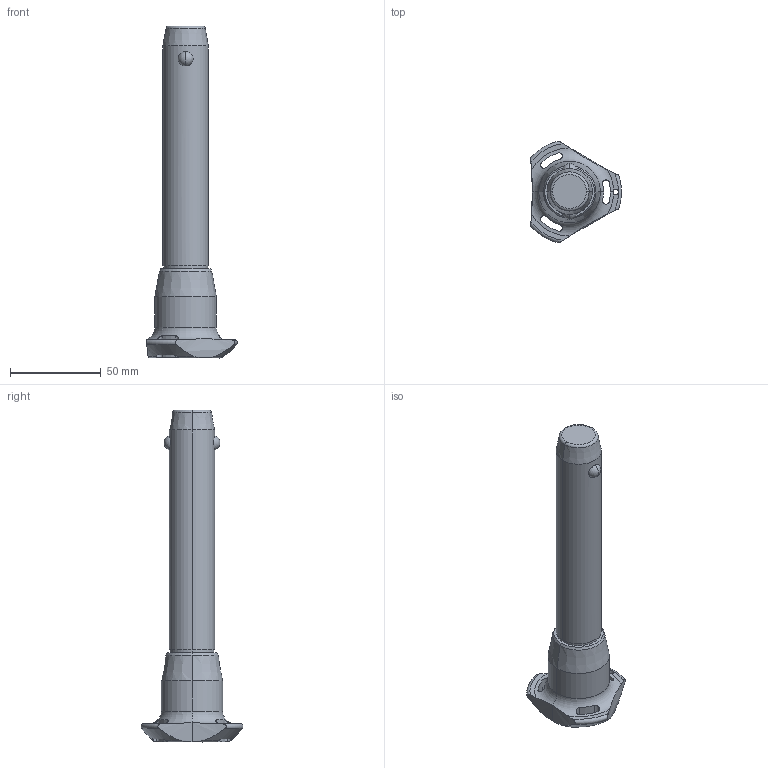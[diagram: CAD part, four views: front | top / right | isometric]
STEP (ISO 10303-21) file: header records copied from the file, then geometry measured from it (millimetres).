
FILE_DESCRIPTION (( 'STEP AP203' ), '1' );
FILE_NAME ('QR1734.M25-110-S.step', '2025-11-12T14:46:38', ( '' ), ( '' ), 'SwSTEP 2.0', 'SolidWorks 2019', '' );
FILE_SCHEMA (( 'CONFIG_CONTROL_DESIGN' ));
Length unit declared in the file: millimetre
Products named in the file (1): QR1734.M25-110-S
Bounding box: 50.04 x 56.02 x 182.7 mm (x, y, z)
Volume: 112449.7 mm3; surface area: 20088.6 mm2
Topology: 1 solids, 1 shells, 65 faces, 176 edges, 111 vertices
Faces by surface type: cylinder 30, cone 14, torus 11, sphere 6, plane 4
Entity records: 2858 total; most frequent: CARTESIAN_POINT 1179, ORIENTED_EDGE 352, DIRECTION 329, EDGE_CURVE 176, AXIS2_PLACEMENT_3D 147, VERTEX_POINT 111, CIRCLE 81, EDGE_LOOP 71
